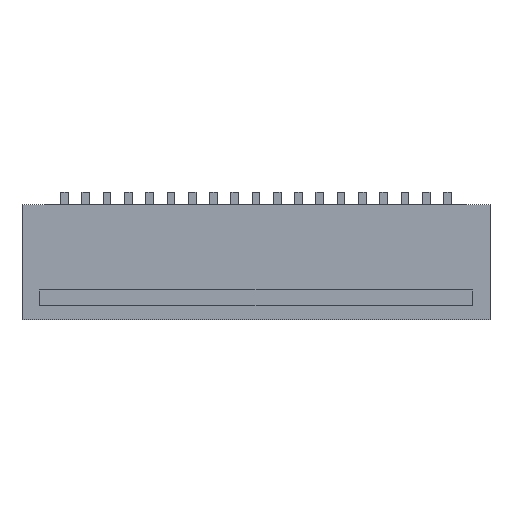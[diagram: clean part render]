
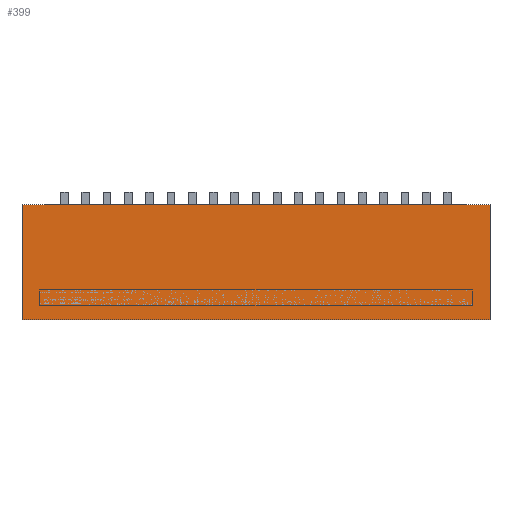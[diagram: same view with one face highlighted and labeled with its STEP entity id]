
A CAD part, top view. The second image highlights one B-rep face of the part: STEP entity #399.
In plain terms, the highlighted planar face has unit normal (0, 0, 1).
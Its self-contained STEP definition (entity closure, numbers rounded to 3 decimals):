
#210 = VERTEX_POINT('',#211);
#211 = CARTESIAN_POINT('',(-6.6,-1.9,1.));
#218 = PLANE('',#219);
#219 = AXIS2_PLACEMENT_3D('',#220,#221,#222);
#220 = CARTESIAN_POINT('',(-6.6,-1.9,0.1));
#221 = DIRECTION('',(1.,0.,0.));
#222 = DIRECTION('',(0.,0.,1.));
#230 = PLANE('',#231);
#231 = AXIS2_PLACEMENT_3D('',#232,#233,#234);
#232 = CARTESIAN_POINT('',(-6.6,-1.9,0.1));
#233 = DIRECTION('',(0.,1.,0.));
#234 = DIRECTION('',(0.,0.,1.));
#271 = VERTEX_POINT('',#272);
#272 = CARTESIAN_POINT('',(-6.6,1.35,1.));
#286 = PLANE('',#287);
#287 = AXIS2_PLACEMENT_3D('',#288,#289,#290);
#288 = CARTESIAN_POINT('',(-6.6,1.35,0.1));
#289 = DIRECTION('',(0.,1.,0.));
#290 = DIRECTION('',(0.,0.,1.));
#298 = EDGE_CURVE('',#210,#271,#299,.T.);
#299 = SURFACE_CURVE('',#300,(#304,#311),.PCURVE_S1.);
#300 = LINE('',#301,#302);
#301 = CARTESIAN_POINT('',(-6.6,-1.9,1.));
#302 = VECTOR('',#303,1.);
#303 = DIRECTION('',(0.,1.,0.));
#304 = PCURVE('',#218,#305);
#305 = DEFINITIONAL_REPRESENTATION('',(#306),#310);
#306 = LINE('',#307,#308);
#307 = CARTESIAN_POINT('',(0.9,0.));
#308 = VECTOR('',#309,1.);
#309 = DIRECTION('',(0.,-1.));
#310 = ( GEOMETRIC_REPRESENTATION_CONTEXT(2) 
PARAMETRIC_REPRESENTATION_CONTEXT() REPRESENTATION_CONTEXT('2D SPACE',''
  ) );
#311 = PCURVE('',#312,#317);
#312 = PLANE('',#313);
#313 = AXIS2_PLACEMENT_3D('',#314,#315,#316);
#314 = CARTESIAN_POINT('',(-6.6,-1.9,1.));
#315 = DIRECTION('',(0.,0.,1.));
#316 = DIRECTION('',(1.,0.,0.));
#317 = DEFINITIONAL_REPRESENTATION('',(#318),#322);
#318 = LINE('',#319,#320);
#319 = CARTESIAN_POINT('',(0.,0.));
#320 = VECTOR('',#321,1.);
#321 = DIRECTION('',(0.,1.));
#322 = ( GEOMETRIC_REPRESENTATION_CONTEXT(2) 
PARAMETRIC_REPRESENTATION_CONTEXT() REPRESENTATION_CONTEXT('2D SPACE',''
  ) );
#351 = EDGE_CURVE('',#210,#352,#354,.T.);
#352 = VERTEX_POINT('',#353);
#353 = CARTESIAN_POINT('',(6.6,-1.9,1.));
#354 = SURFACE_CURVE('',#355,(#359,#366),.PCURVE_S1.);
#355 = LINE('',#356,#357);
#356 = CARTESIAN_POINT('',(-6.6,-1.9,1.));
#357 = VECTOR('',#358,1.);
#358 = DIRECTION('',(1.,0.,0.));
#359 = PCURVE('',#230,#360);
#360 = DEFINITIONAL_REPRESENTATION('',(#361),#365);
#361 = LINE('',#362,#363);
#362 = CARTESIAN_POINT('',(0.9,0.));
#363 = VECTOR('',#364,1.);
#364 = DIRECTION('',(0.,1.));
#365 = ( GEOMETRIC_REPRESENTATION_CONTEXT(2) 
PARAMETRIC_REPRESENTATION_CONTEXT() REPRESENTATION_CONTEXT('2D SPACE',''
  ) );
#366 = PCURVE('',#312,#367);
#367 = DEFINITIONAL_REPRESENTATION('',(#368),#372);
#368 = LINE('',#369,#370);
#369 = CARTESIAN_POINT('',(0.,0.));
#370 = VECTOR('',#371,1.);
#371 = DIRECTION('',(1.,0.));
#372 = ( GEOMETRIC_REPRESENTATION_CONTEXT(2) 
PARAMETRIC_REPRESENTATION_CONTEXT() REPRESENTATION_CONTEXT('2D SPACE',''
  ) );
#388 = PLANE('',#389);
#389 = AXIS2_PLACEMENT_3D('',#390,#391,#392);
#390 = CARTESIAN_POINT('',(6.6,-1.9,0.1));
#391 = DIRECTION('',(1.,0.,0.));
#392 = DIRECTION('',(0.,0.,1.));
#399 = ADVANCED_FACE('',(#400),#312,.T.);
#400 = FACE_BOUND('',#401,.T.);
#401 = EDGE_LOOP('',(#402,#403,#404,#427));
#402 = ORIENTED_EDGE('',*,*,#298,.F.);
#403 = ORIENTED_EDGE('',*,*,#351,.T.);
#404 = ORIENTED_EDGE('',*,*,#405,.T.);
#405 = EDGE_CURVE('',#352,#406,#408,.T.);
#406 = VERTEX_POINT('',#407);
#407 = CARTESIAN_POINT('',(6.6,1.35,1.));
#408 = SURFACE_CURVE('',#409,(#413,#420),.PCURVE_S1.);
#409 = LINE('',#410,#411);
#410 = CARTESIAN_POINT('',(6.6,-1.9,1.));
#411 = VECTOR('',#412,1.);
#412 = DIRECTION('',(0.,1.,0.));
#413 = PCURVE('',#312,#414);
#414 = DEFINITIONAL_REPRESENTATION('',(#415),#419);
#415 = LINE('',#416,#417);
#416 = CARTESIAN_POINT('',(13.2,0.));
#417 = VECTOR('',#418,1.);
#418 = DIRECTION('',(0.,1.));
#419 = ( GEOMETRIC_REPRESENTATION_CONTEXT(2) 
PARAMETRIC_REPRESENTATION_CONTEXT() REPRESENTATION_CONTEXT('2D SPACE',''
  ) );
#420 = PCURVE('',#388,#421);
#421 = DEFINITIONAL_REPRESENTATION('',(#422),#426);
#422 = LINE('',#423,#424);
#423 = CARTESIAN_POINT('',(0.9,0.));
#424 = VECTOR('',#425,1.);
#425 = DIRECTION('',(0.,-1.));
#426 = ( GEOMETRIC_REPRESENTATION_CONTEXT(2) 
PARAMETRIC_REPRESENTATION_CONTEXT() REPRESENTATION_CONTEXT('2D SPACE',''
  ) );
#427 = ORIENTED_EDGE('',*,*,#428,.F.);
#428 = EDGE_CURVE('',#271,#406,#429,.T.);
#429 = SURFACE_CURVE('',#430,(#434,#441),.PCURVE_S1.);
#430 = LINE('',#431,#432);
#431 = CARTESIAN_POINT('',(-6.6,1.35,1.));
#432 = VECTOR('',#433,1.);
#433 = DIRECTION('',(1.,0.,0.));
#434 = PCURVE('',#312,#435);
#435 = DEFINITIONAL_REPRESENTATION('',(#436),#440);
#436 = LINE('',#437,#438);
#437 = CARTESIAN_POINT('',(0.,3.25));
#438 = VECTOR('',#439,1.);
#439 = DIRECTION('',(1.,0.));
#440 = ( GEOMETRIC_REPRESENTATION_CONTEXT(2) 
PARAMETRIC_REPRESENTATION_CONTEXT() REPRESENTATION_CONTEXT('2D SPACE',''
  ) );
#441 = PCURVE('',#286,#442);
#442 = DEFINITIONAL_REPRESENTATION('',(#443),#447);
#443 = LINE('',#444,#445);
#444 = CARTESIAN_POINT('',(0.9,0.));
#445 = VECTOR('',#446,1.);
#446 = DIRECTION('',(0.,1.));
#447 = ( GEOMETRIC_REPRESENTATION_CONTEXT(2) 
PARAMETRIC_REPRESENTATION_CONTEXT() REPRESENTATION_CONTEXT('2D SPACE',''
  ) );
